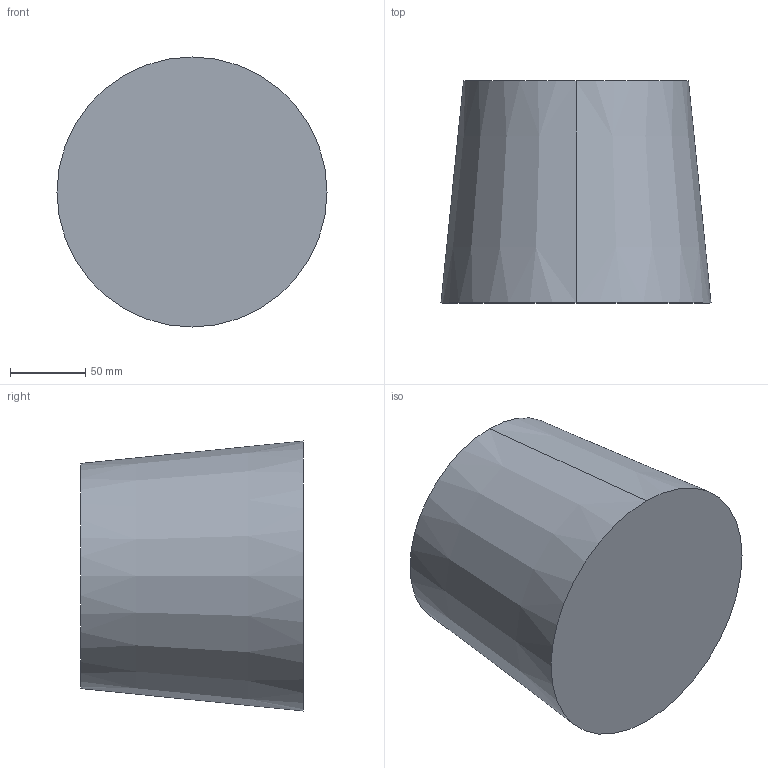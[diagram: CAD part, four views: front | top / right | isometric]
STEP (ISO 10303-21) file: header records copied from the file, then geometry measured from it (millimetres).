
FILE_DESCRIPTION (( 'STEP AP203' ), '1' );
FILE_NAME ('Base_Default_sldprt.STEP', '2022-03-13T17:40:36', ( '' ), ( '' ), 'SwSTEP 2.0', 'SolidWorks 2020', '' );
FILE_SCHEMA (( 'CONFIG_CONTROL_DESIGN' ));
Length unit declared in the file: millimetre
Products named in the file (1): Base_Default_sldprt
Bounding box: 180 x 148 x 180 mm (x, y, z)
Volume: 3173322.7 mm3; surface area: 120229.1 mm2
Topology: 1 solids, 1 shells, 4 faces, 6 edges, 4 vertices
Faces by surface type: cone 2, plane 2
Entity records: 171 total; most frequent: DIRECTION 20, CARTESIAN_POINT 15, ORIENTED_EDGE 12, AXIS2_PLACEMENT_3D 9, PERSON_AND_ORGANIZATION 8, EDGE_CURVE 6, COORDINATED_UNIVERSAL_TIME_OFFSET 5, CC_DESIGN_PERSON_AND_ORGANIZATION_ASSIGNMENT 5
